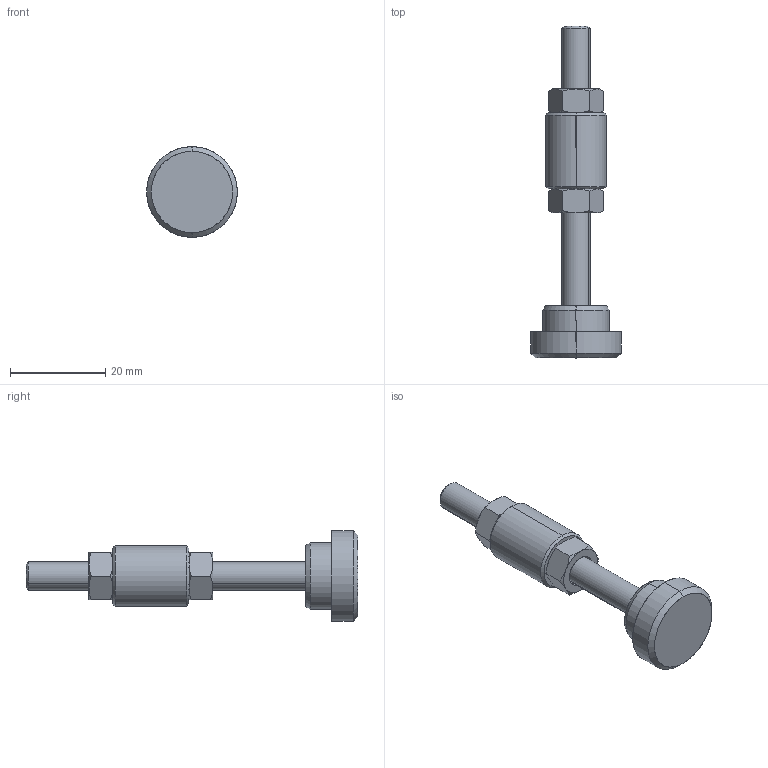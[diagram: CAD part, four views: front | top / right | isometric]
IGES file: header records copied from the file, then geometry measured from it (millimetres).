
Start section: SolidWorks IGES file using analytic representation for surfaces
Global section: file name: C:\Projetos\Ponteiras\ARB\ARB-M6.IGS; native system: SolidWorks 2012; preprocessor: SolidWorks 2012; author: Ricardo; date: 140129.133402; units: millimetre
Bounding box: 19.05 x 69.7 x 19.05 mm (x, y, z)
Surface area: 4631.8 mm2 (no closed solid volume)
Topology: 0 solids, 0 shells, 94 faces, 1156 edges, 1154 vertices
Faces by surface type: revolution 64, bspline 30
